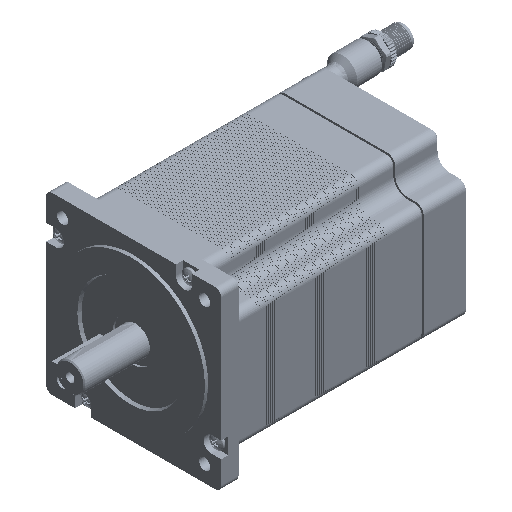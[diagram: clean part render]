
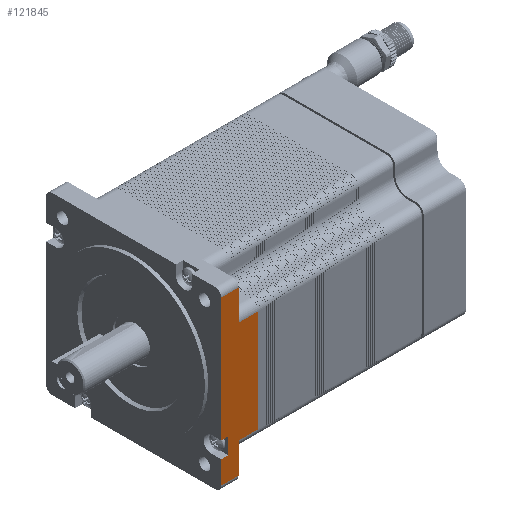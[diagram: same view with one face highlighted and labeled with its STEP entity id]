
A CAD part, isometric view. The second image highlights one B-rep face of the part: STEP entity #121845.
In plain terms, the highlighted free-form (B-spline) face has degree [1, 1] with [2, 2] control points.
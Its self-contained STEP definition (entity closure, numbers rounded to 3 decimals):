
#1652 = ORIENTED_EDGE ( 'NONE', *, *, #146014, .T. ) ;
#6358 = ORIENTED_EDGE ( 'NONE', *, *, #170998, .T. ) ;
#7574 = VERTEX_POINT ( 'NONE', #109257 ) ;
#10146 = B_SPLINE_CURVE_WITH_KNOTS ( 'NONE', 1,
 ( #141604, #60508 ),
 .UNSPECIFIED., .F., .F.,
 ( 2, 2 ),
 ( 0., 1. ),
 .UNSPECIFIED. ) ;
#12778 = ORIENTED_EDGE ( 'NONE', *, *, #59257, .T. ) ;
#14434 = ORIENTED_EDGE ( 'NONE', *, *, #74159, .T. ) ;
#18324 = EDGE_CURVE ( 'NONE', #35174, #83223, #90293, .T. ) ;
#22330 = CARTESIAN_POINT ( 'NONE',  ( 0., -42.9, 39.9 ) ) ;
#24370 = CARTESIAN_POINT ( 'NONE',  ( 0., -42.9, -28.75 ) ) ;
#25090 = EDGE_CURVE ( 'NONE', #73644, #171133, #37270, .T. ) ;
#26659 = CARTESIAN_POINT ( 'NONE',  ( 18.1, -42.9, -25. ) ) ;
#26880 = ORIENTED_EDGE ( 'NONE', *, *, #35269, .T. ) ;
#30293 = ORIENTED_EDGE ( 'NONE', *, *, #25090, .T. ) ;
#35174 = VERTEX_POINT ( 'NONE', #85300 ) ;
#35269 = EDGE_CURVE ( 'NONE', #171133, #140549, #102221, .T. ) ;
#35692 = CARTESIAN_POINT ( 'NONE',  ( 8.5, -42.9, 39.9 ) ) ;
#36949 = CARTESIAN_POINT ( 'NONE',  ( 18.1, -42.9, 25. ) ) ;
#37270 = B_SPLINE_CURVE_WITH_KNOTS ( 'NONE', 1,
 ( #148826, #26659 ),
 .UNSPECIFIED., .F., .F.,
 ( 2, 2 ),
 ( 0., 1. ),
 .UNSPECIFIED. ) ;
#38918 = CARTESIAN_POINT ( 'NONE',  ( 0., -42.9, 39.9 ) ) ;
#38965 = ORIENTED_EDGE ( 'NONE', *, *, #63765, .T. ) ;
#39507 = VERTEX_POINT ( 'NONE', #108542 ) ;
#40145 = B_SPLINE_CURVE_WITH_KNOTS ( 'NONE', 1,
 ( #133029, #132171 ),
 .UNSPECIFIED., .F., .F.,
 ( 2, 2 ),
 ( 0., 1. ),
 .UNSPECIFIED. ) ;
#51235 = CARTESIAN_POINT ( 'NONE',  ( 0., -42.9, 39.9 ) ) ;
#52850 = CARTESIAN_POINT ( 'NONE',  ( 8.5, -42.9, 25. ) ) ;
#53459 = EDGE_LOOP ( 'NONE', ( #94941, #14434, #30293, #26880, #1652, #38965, #118389, #149227, #6358, #105120, #12778, #86024 ) ) ;
#53695 = CARTESIAN_POINT ( 'NONE',  ( 0., -42.9, -39.9 ) ) ;
#55641 = B_SPLINE_SURFACE_WITH_KNOTS ( 'NONE', 1, 1, ( 
 ( #173175, #53695 ),
 ( #174952, #159767 ) ),
 .UNSPECIFIED., .F., .F., .F.,
 ( 2, 2 ),
 ( 2, 2 ),
 ( 0., 1. ),
 ( 0., 1. ),
 .UNSPECIFIED. ) ;
#57558 = CARTESIAN_POINT ( 'NONE',  ( 3.5, -42.9, -20.75 ) ) ;
#59257 = EDGE_CURVE ( 'NONE', #146511, #81123, #10146, .T. ) ;
#60220 = CARTESIAN_POINT ( 'NONE',  ( 0., -42.9, -39.9 ) ) ;
#60508 = CARTESIAN_POINT ( 'NONE',  ( 0., -42.9, -28.75 ) ) ;
#63765 = EDGE_CURVE ( 'NONE', #7574, #119658, #104936, .T. ) ;
#65129 = CARTESIAN_POINT ( 'NONE',  ( 3.5, -42.9, -20.75 ) ) ;
#67525 = CARTESIAN_POINT ( 'NONE',  ( 18.1, -42.9, -25. ) ) ;
#68021 = CARTESIAN_POINT ( 'NONE',  ( 18.1, -42.9, 25. ) ) ;
#73644 = VERTEX_POINT ( 'NONE', #99933 ) ;
#74159 = EDGE_CURVE ( 'NONE', #39507, #73644, #120392, .T. ) ;
#74505 = CARTESIAN_POINT ( 'NONE',  ( 0., -42.9, -20.75 ) ) ;
#76428 = B_SPLINE_CURVE_WITH_KNOTS ( 'NONE', 1,
 ( #60220, #103067 ),
 .UNSPECIFIED., .F., .F.,
 ( 2, 2 ),
 ( 0., 1. ),
 .UNSPECIFIED. ) ;
#78258 = CARTESIAN_POINT ( 'NONE',  ( 18.1, -42.9, 25. ) ) ;
#79102 = B_SPLINE_CURVE_WITH_KNOTS ( 'NONE', 1,
 ( #145991, #133554 ),
 .UNSPECIFIED., .F., .F.,
 ( 2, 2 ),
 ( 0., 1. ),
 .UNSPECIFIED. ) ;
#81123 = VERTEX_POINT ( 'NONE', #24370 ) ;
#83223 = VERTEX_POINT ( 'NONE', #38918 ) ;
#85300 = CARTESIAN_POINT ( 'NONE',  ( 0., -42.9, -20.75 ) ) ;
#86024 = ORIENTED_EDGE ( 'NONE', *, *, #137919, .F. ) ;
#90293 = B_SPLINE_CURVE_WITH_KNOTS ( 'NONE', 1,
 ( #74505, #51235 ),
 .UNSPECIFIED., .F., .F.,
 ( 2, 2 ),
 ( 0., 1. ),
 .UNSPECIFIED. ) ;
#94941 = ORIENTED_EDGE ( 'NONE', *, *, #158078, .T. ) ;
#99933 = CARTESIAN_POINT ( 'NONE',  ( 8.5, -42.9, -25. ) ) ;
#102221 = B_SPLINE_CURVE_WITH_KNOTS ( 'NONE', 1,
 ( #159096, #36949 ),
 .UNSPECIFIED., .F., .F.,
 ( 2, 2 ),
 ( 0., 1. ),
 .UNSPECIFIED. ) ;
#103067 = CARTESIAN_POINT ( 'NONE',  ( 8.5, -42.9, -39.9 ) ) ;
#104638 = FACE_OUTER_BOUND ( 'NONE', #53459, .T. ) ;
#104936 = B_SPLINE_CURVE_WITH_KNOTS ( 'NONE', 1,
 ( #52850, #120621 ),
 .UNSPECIFIED., .F., .F.,
 ( 2, 2 ),
 ( 0., 1. ),
 .UNSPECIFIED. ) ;
#105120 = ORIENTED_EDGE ( 'NONE', *, *, #174919, .T. ) ;
#108542 = CARTESIAN_POINT ( 'NONE',  ( 8.5, -42.9, -39.9 ) ) ;
#109238 = EDGE_CURVE ( 'NONE', #119658, #83223, #149772, .T. ) ;
#109257 = CARTESIAN_POINT ( 'NONE',  ( 8.5, -42.9, 25. ) ) ;
#118335 = CARTESIAN_POINT ( 'NONE',  ( 8.5, -42.9, -39.9 ) ) ;
#118389 = ORIENTED_EDGE ( 'NONE', *, *, #109238, .T. ) ;
#119658 = VERTEX_POINT ( 'NONE', #146895 ) ;
#120392 = B_SPLINE_CURVE_WITH_KNOTS ( 'NONE', 1,
 ( #118335, #172668 ),
 .UNSPECIFIED., .F., .F.,
 ( 2, 2 ),
 ( 0., 1. ),
 .UNSPECIFIED. ) ;
#120621 = CARTESIAN_POINT ( 'NONE',  ( 8.5, -42.9, 39.9 ) ) ;
#121845 = ADVANCED_FACE ( 'NONE', ( #104638 ), #55641, .T. ) ;
#122438 = CARTESIAN_POINT ( 'NONE',  ( 8.5, -42.9, 25. ) ) ;
#132171 = CARTESIAN_POINT ( 'NONE',  ( 0., -42.9, -28.75 ) ) ;
#133029 = CARTESIAN_POINT ( 'NONE',  ( 0., -42.9, -39.9 ) ) ;
#133554 = CARTESIAN_POINT ( 'NONE',  ( 3.5, -42.9, -20.75 ) ) ;
#134730 = B_SPLINE_CURVE_WITH_KNOTS ( 'NONE', 1,
 ( #68021, #122438 ),
 .UNSPECIFIED., .F., .F.,
 ( 2, 2 ),
 ( 0., 1. ),
 .UNSPECIFIED. ) ;
#136593 = B_SPLINE_CURVE_WITH_KNOTS ( 'NONE', 1,
 ( #65129, #143600 ),
 .UNSPECIFIED., .F., .F.,
 ( 2, 2 ),
 ( 0., 1. ),
 .UNSPECIFIED. ) ;
#137919 = EDGE_CURVE ( 'NONE', #150161, #81123, #40145, .T. ) ;
#140549 = VERTEX_POINT ( 'NONE', #78258 ) ;
#141604 = CARTESIAN_POINT ( 'NONE',  ( 3.5, -42.9, -28.75 ) ) ;
#143600 = CARTESIAN_POINT ( 'NONE',  ( 3.5, -42.9, -28.75 ) ) ;
#145991 = CARTESIAN_POINT ( 'NONE',  ( 0., -42.9, -20.75 ) ) ;
#146014 = EDGE_CURVE ( 'NONE', #140549, #7574, #134730, .T. ) ;
#146511 = VERTEX_POINT ( 'NONE', #175251 ) ;
#146895 = CARTESIAN_POINT ( 'NONE',  ( 8.5, -42.9, 39.9 ) ) ;
#147873 = CARTESIAN_POINT ( 'NONE',  ( 0., -42.9, -39.9 ) ) ;
#148826 = CARTESIAN_POINT ( 'NONE',  ( 8.5, -42.9, -25. ) ) ;
#149227 = ORIENTED_EDGE ( 'NONE', *, *, #18324, .F. ) ;
#149772 = B_SPLINE_CURVE_WITH_KNOTS ( 'NONE', 1,
 ( #35692, #22330 ),
 .UNSPECIFIED., .F., .F.,
 ( 2, 2 ),
 ( 0., 1. ),
 .UNSPECIFIED. ) ;
#150161 = VERTEX_POINT ( 'NONE', #147873 ) ;
#157970 = VERTEX_POINT ( 'NONE', #57558 ) ;
#158078 = EDGE_CURVE ( 'NONE', #150161, #39507, #76428, .T. ) ;
#159096 = CARTESIAN_POINT ( 'NONE',  ( 18.1, -42.9, -25. ) ) ;
#159767 = CARTESIAN_POINT ( 'NONE',  ( 0., -42.9, 39.9 ) ) ;
#170998 = EDGE_CURVE ( 'NONE', #35174, #157970, #79102, .T. ) ;
#171133 = VERTEX_POINT ( 'NONE', #67525 ) ;
#172668 = CARTESIAN_POINT ( 'NONE',  ( 8.5, -42.9, -25. ) ) ;
#173175 = CARTESIAN_POINT ( 'NONE',  ( 18.1, -42.9, -39.9 ) ) ;
#174919 = EDGE_CURVE ( 'NONE', #157970, #146511, #136593, .T. ) ;
#174952 = CARTESIAN_POINT ( 'NONE',  ( 18.1, -42.9, 39.9 ) ) ;
#175251 = CARTESIAN_POINT ( 'NONE',  ( 3.5, -42.9, -28.75 ) ) ;
